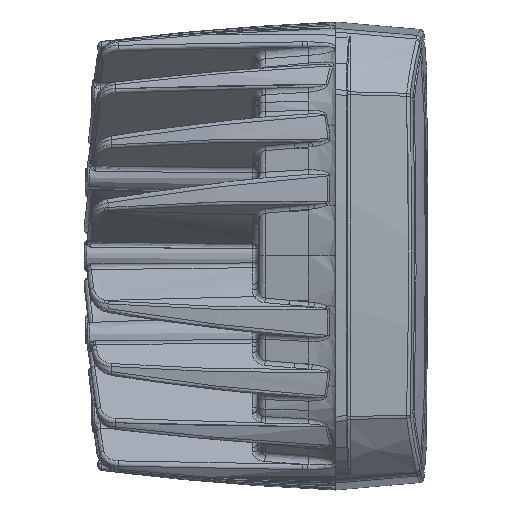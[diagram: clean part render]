
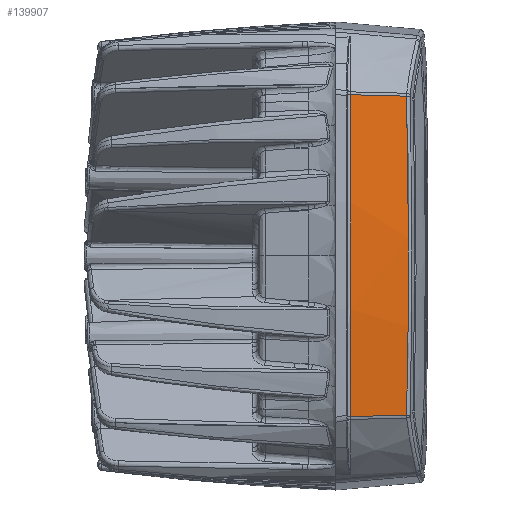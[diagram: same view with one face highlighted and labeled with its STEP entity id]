
A CAD part, top view. The second image highlights one B-rep face of the part: STEP entity #139907.
In plain terms, the highlighted conical face has half-angle 5 degrees and reference radius 400 mm.
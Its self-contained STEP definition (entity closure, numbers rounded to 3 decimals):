
#138106=AXIS2_PLACEMENT_3D('Circle Axis2P3D',#138104,#138105,$) ;
#139884=AXIS2_PLACEMENT_3D('Cone Axis2P3D',#139881,#139882,#139883) ;
#138082=CARTESIAN_POINT('Vertex',(30.685,-39.54,50.217)) ;
#138104=CARTESIAN_POINT('Axis2P3D Location',(30.685,0.,-347.5)) ;
#138108=CARTESIAN_POINT('Vertex',(30.685,39.54,50.217)) ;
#139863=CARTESIAN_POINT('Vertex',(44.447,-39.193,49.041)) ;
#139867=CARTESIAN_POINT('Control Point',(44.447,-39.193,49.041)) ;
#139868=CARTESIAN_POINT('Control Point',(41.695,-39.262,49.277)) ;
#139869=CARTESIAN_POINT('Control Point',(38.942,-39.332,49.512)) ;
#139870=CARTESIAN_POINT('Control Point',(36.19,-39.401,49.747)) ;
#139871=CARTESIAN_POINT('Control Point',(33.437,-39.471,49.982)) ;
#139872=CARTESIAN_POINT('Control Point',(30.685,-39.54,50.217)) ;
#139881=CARTESIAN_POINT('Axis2P3D Location',(27.,0.,-347.5)) ;
#139887=CARTESIAN_POINT('Control Point',(44.447,39.193,49.041)) ;
#139888=CARTESIAN_POINT('Control Point',(44.918,19.676,50.929)) ;
#139889=CARTESIAN_POINT('Control Point',(45.055,0.,51.569)) ;
#139890=CARTESIAN_POINT('Control Point',(44.918,-19.677,50.929)) ;
#139891=CARTESIAN_POINT('Control Point',(44.447,-39.193,49.041)) ;
#139892=CARTESIAN_POINT('Vertex',(44.447,39.193,49.041)) ;
#139896=CARTESIAN_POINT('Control Point',(44.447,39.193,49.041)) ;
#139897=CARTESIAN_POINT('Control Point',(39.86,39.309,49.433)) ;
#139898=CARTESIAN_POINT('Control Point',(35.272,39.425,49.825)) ;
#139899=CARTESIAN_POINT('Control Point',(30.685,39.54,50.217)) ;
#138105=DIRECTION('Axis2P3D Direction',(1.,-0.,0.)) ;
#139882=DIRECTION('Axis2P3D Direction',(-1.,-0.,-0.)) ;
#139883=DIRECTION('Axis2P3D XDirection',(0.,0.1,0.995)) ;
#139902=ORIENTED_EDGE('',*,*,#138110,.F.) ;
#139903=ORIENTED_EDGE('',*,*,#139873,.F.) ;
#139904=ORIENTED_EDGE('',*,*,#139894,.F.) ;
#139905=ORIENTED_EDGE('',*,*,#139900,.T.) ;
#139907=ADVANCED_FACE('Housing_gr',(#139906),#139885,.T.) ;
#139866=B_SPLINE_CURVE_WITH_KNOTS('',5,(#139867,#139868,#139869,#139870,#139871,#139872),.UNSPECIFIED.,.F.,.U.,(6,6),(10.309,29.85),.UNSPECIFIED.) ;
#139886=B_SPLINE_CURVE_WITH_KNOTS('',4,(#139887,#139888,#139889,#139890,#139891),.UNSPECIFIED.,.F.,.U.,(5,5),(44.211,141.537),.UNSPECIFIED.) ;
#139895=B_SPLINE_CURVE_WITH_KNOTS('',3,(#139896,#139897,#139898,#139899),.UNSPECIFIED.,.F.,.U.,(4,4),(10.309,29.85),.UNSPECIFIED.) ;
#138107=CIRCLE('generated circle',#138106,399.678) ;
#139885=CONICAL_SURFACE('Cone',#139884,400.,0.087) ;
#138110=EDGE_CURVE('',#138083,#138109,#138107,.F.) ;
#139873=EDGE_CURVE('',#139864,#138083,#139866,.T.) ;
#139894=EDGE_CURVE('',#139893,#139864,#139886,.T.) ;
#139900=EDGE_CURVE('',#139893,#138109,#139895,.T.) ;
#139901=EDGE_LOOP('',(#139902,#139903,#139904,#139905)) ;
#139906=FACE_OUTER_BOUND('',#139901,.T.) ;
#138083=VERTEX_POINT('',#138082) ;
#138109=VERTEX_POINT('',#138108) ;
#139864=VERTEX_POINT('',#139863) ;
#139893=VERTEX_POINT('',#139892) ;
